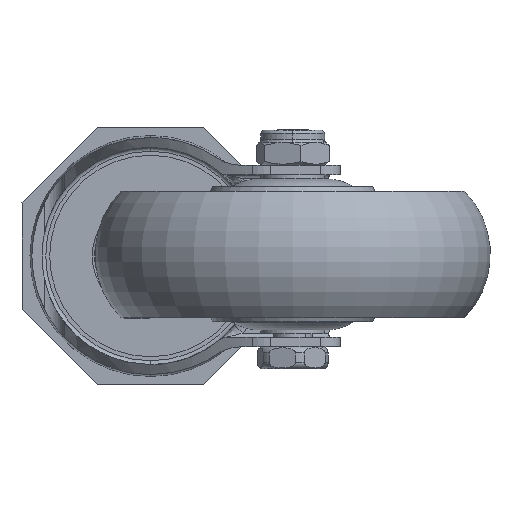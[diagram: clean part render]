
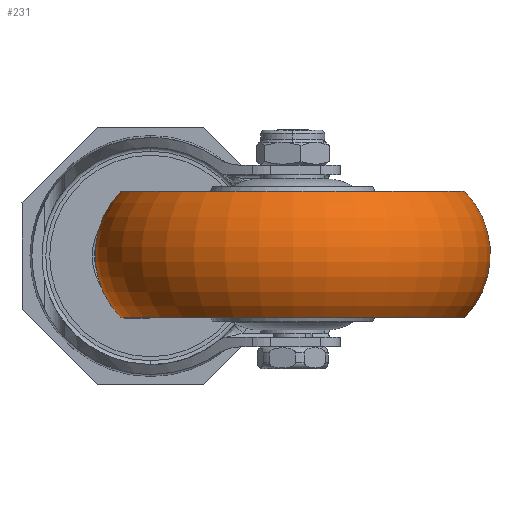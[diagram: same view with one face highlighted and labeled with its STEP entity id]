
A CAD part, front view. The second image highlights one B-rep face of the part: STEP entity #231.
In plain terms, the highlighted toroidal (fillet/blend) face has major radius 27.058 mm and minor radius 22.942 mm.
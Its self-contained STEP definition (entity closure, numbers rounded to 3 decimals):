
#168 = ORIENTED_EDGE ( 'NONE', *, *, #169, .F. ) ;
#169 = EDGE_CURVE ( 'NONE', #170, #259, #6249, .T. ) ;
#170 = VERTEX_POINT ( 'NONE', #6159 ) ;
#201 = ORIENTED_EDGE ( 'NONE', *, *, #202, .F. ) ;
#202 = EDGE_CURVE ( 'NONE', #255, #170, #6614, .T. ) ;
#218 = ORIENTED_EDGE ( 'NONE', *, *, #219, .T. ) ;
#219 = EDGE_CURVE ( 'NONE', #255, #256, #6548, .T. ) ;
#231 = ADVANCED_FACE ( 'NONE', ( #6522 ), #6521, .T. ) ;
#232 = EDGE_LOOP ( 'NONE', ( #218, #257, #168, #201 ) ) ;
#255 = VERTEX_POINT ( 'NONE', #6511 ) ;
#256 = VERTEX_POINT ( 'NONE', #6510 ) ;
#257 = ORIENTED_EDGE ( 'NONE', *, *, #258, .T. ) ;
#258 = EDGE_CURVE ( 'NONE', #256, #259, #6509, .T. ) ;
#259 = VERTEX_POINT ( 'NONE', #6504 ) ;
#6159 = CARTESIAN_POINT ( 'NONE',  ( 43.5, -16., 0. ) ) ;
#6160 = DIRECTION ( 'NONE',  ( 1., 0., 0. ) ) ;
#6161 = DIRECTION ( 'NONE',  ( 0., -1., 0. ) ) ;
#6162 = AXIS2_PLACEMENT_3D ( 'NONE', #6255, #6161, #6160 ) ;
#6249 = CIRCLE ( 'NONE', #6162, 43.5 ) ;
#6255 = CARTESIAN_POINT ( 'NONE',  ( 0., -16., 0. ) ) ;
#6454 = DIRECTION ( 'NONE',  ( -1., 0., 0. ) ) ;
#6455 = DIRECTION ( 'NONE',  ( 0., 0., -1. ) ) ;
#6504 = CARTESIAN_POINT ( 'NONE',  ( -43.5, -16., 0. ) ) ;
#6505 = DIRECTION ( 'NONE',  ( 1., 0., 0. ) ) ;
#6506 = DIRECTION ( 'NONE',  ( 0., 0., 1. ) ) ;
#6507 = CARTESIAN_POINT ( 'NONE',  ( -27.058, 0., 0. ) ) ;
#6508 = AXIS2_PLACEMENT_3D ( 'NONE', #6507, #6506, #6505 ) ;
#6509 = CIRCLE ( 'NONE', #6508, 22.942 ) ;
#6510 = CARTESIAN_POINT ( 'NONE',  ( -43.5, 16., 0. ) ) ;
#6511 = CARTESIAN_POINT ( 'NONE',  ( 43.5, 16., 0. ) ) ;
#6519 = CARTESIAN_POINT ( 'NONE',  ( 0., 0., 0. ) ) ;
#6520 = AXIS2_PLACEMENT_3D ( 'NONE', #6519, #6580, #6579 ) ;
#6521 = TOROIDAL_SURFACE ( 'NONE', #6520, 27.058, 22.942 ) ;
#6522 = FACE_OUTER_BOUND ( 'NONE', #232, .T. ) ;
#6544 = DIRECTION ( 'NONE',  ( 1., 0., 0. ) ) ;
#6545 = DIRECTION ( 'NONE',  ( 0., -1., 0. ) ) ;
#6546 = CARTESIAN_POINT ( 'NONE',  ( 0., 16., 0. ) ) ;
#6547 = AXIS2_PLACEMENT_3D ( 'NONE', #6546, #6545, #6544 ) ;
#6548 = CIRCLE ( 'NONE', #6547, 43.5 ) ;
#6579 = DIRECTION ( 'NONE',  ( 1., 0., 0. ) ) ;
#6580 = DIRECTION ( 'NONE',  ( 0., -1., 0. ) ) ;
#6612 = CARTESIAN_POINT ( 'NONE',  ( 27.058, 0., 0. ) ) ;
#6613 = AXIS2_PLACEMENT_3D ( 'NONE', #6612, #6455, #6454 ) ;
#6614 = CIRCLE ( 'NONE', #6613, 22.942 ) ;
